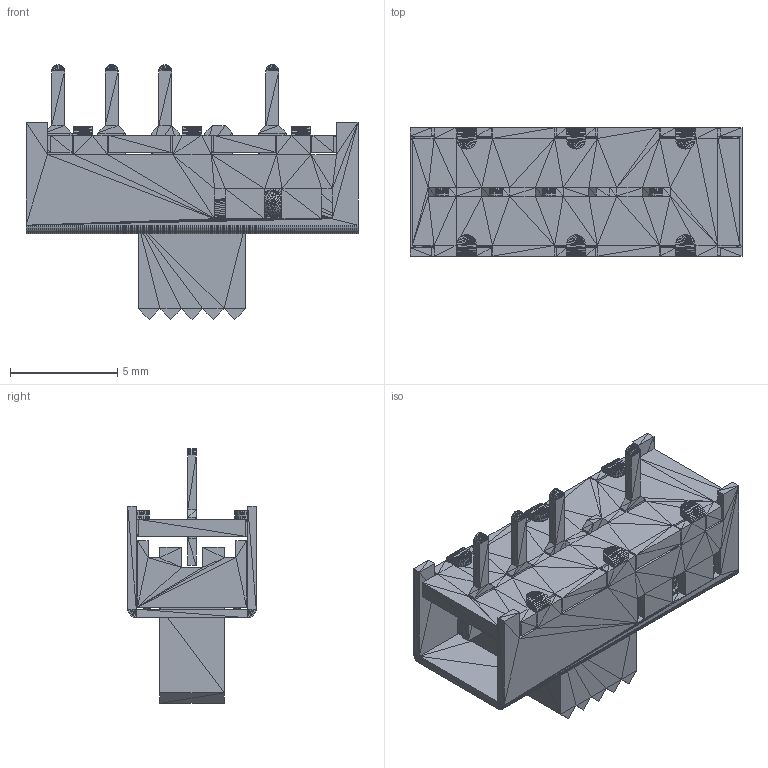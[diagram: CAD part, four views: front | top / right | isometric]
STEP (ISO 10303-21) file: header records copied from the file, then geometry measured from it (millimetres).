
FILE_DESCRIPTION(/* description */ (''),/* implementation_level */ '2;1');
FILE_NAME(/* name */ 'mfp1323_asm.stp',/* time_stamp */ '2018-11-6T11:48:24.1033488',/* author */ ('knitter-switch'),/* organization */ (''),/* preprocessor_version */ 'InStep v2',/* originating_system */ 'InStep V2.3',/* authorisation */ '');
FILE_SCHEMA (('AUTOMOTIVE_DESIGN { 1 0 10303 214 1 1 1 1 }'));
Length unit declared in the file: centimetre
Products named in the file (1): None
Bounding box: 15.5 x 6 x 11.9 mm (x, y, z)
Volume: 66.3 mm3; surface area: 1064.5 mm2
Topology: 2 solids, 14 shells, 4412 faces, 7264 edges, 2768 vertices
Faces by surface type: plane 4412
Entity records: 69532 total; most frequent: ORIENTED_EDGE 14528, DIRECTION 8583, LINE 7264, EDGE_CURVE 7264, AXIS2_PLACEMENT_3D 4413, EDGE_LOOP 4412, FACE_OUTER_BOUND 4412, PLANE 4412
